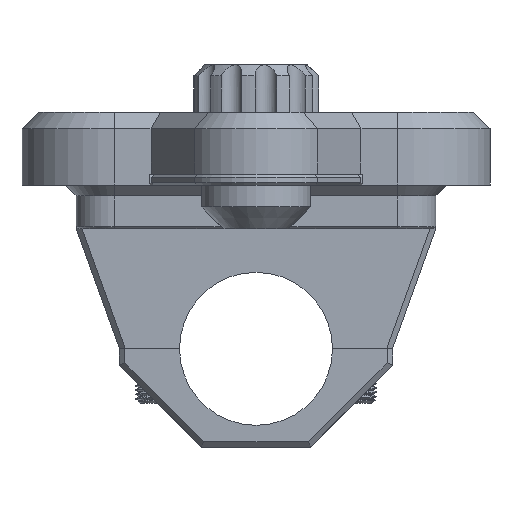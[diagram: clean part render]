
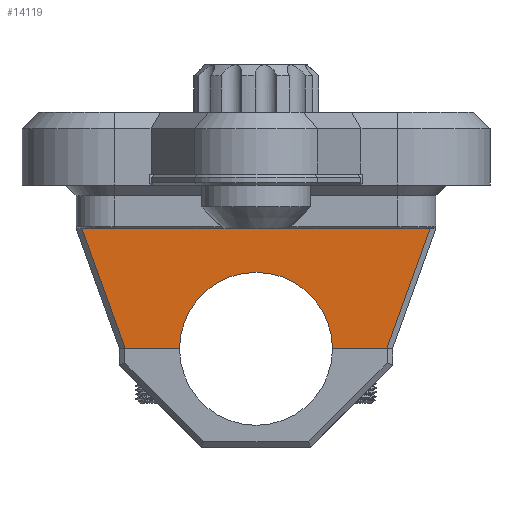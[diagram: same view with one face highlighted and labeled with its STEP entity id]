
A CAD part, left-side view. The second image highlights one B-rep face of the part: STEP entity #14119.
In plain terms, the highlighted planar face has unit normal (-1, 0, 0).
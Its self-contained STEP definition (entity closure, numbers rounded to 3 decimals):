
#1620=CIRCLE('',#15102,14.);
#1945=FACE_OUTER_BOUND('',#2768,.T.);
#2768=EDGE_LOOP('',(#10193,#10194,#10195,#10196,#10197,#10198,#10199,#10200,
#10201,#10202,#10203,#10204));
#3814=LINE('',#21311,#4894);
#3815=LINE('',#21314,#4895);
#3818=LINE('',#21320,#4898);
#3819=LINE('',#21322,#4899);
#3820=LINE('',#21324,#4900);
#3821=LINE('',#21326,#4901);
#3822=LINE('',#21328,#4902);
#3823=LINE('',#21332,#4903);
#3824=LINE('',#21334,#4904);
#3825=LINE('',#21336,#4905);
#3826=LINE('',#21337,#4906);
#4894=VECTOR('',#16822,10.);
#4895=VECTOR('',#16825,10.);
#4898=VECTOR('',#16830,10.);
#4899=VECTOR('',#16831,10.);
#4900=VECTOR('',#16832,10.);
#4901=VECTOR('',#16833,10.);
#4902=VECTOR('',#16834,10.);
#4903=VECTOR('',#16837,10.);
#4904=VECTOR('',#16838,10.);
#4905=VECTOR('',#16839,10.);
#4906=VECTOR('',#16840,10.);
#5956=VERTEX_POINT('',#21291);
#5960=VERTEX_POINT('',#21307);
#5961=VERTEX_POINT('',#21313);
#5963=VERTEX_POINT('',#21319);
#5964=VERTEX_POINT('',#21321);
#5965=VERTEX_POINT('',#21323);
#5966=VERTEX_POINT('',#21325);
#5967=VERTEX_POINT('',#21327);
#5968=VERTEX_POINT('',#21329);
#5969=VERTEX_POINT('',#21331);
#5970=VERTEX_POINT('',#21333);
#5971=VERTEX_POINT('',#21335);
#7557=EDGE_CURVE('',#5956,#5960,#3814,.T.);
#7558=EDGE_CURVE('',#5960,#5961,#3815,.T.);
#7561=EDGE_CURVE('',#5956,#5963,#3818,.T.);
#7562=EDGE_CURVE('',#5964,#5963,#3819,.F.);
#7563=EDGE_CURVE('',#5965,#5964,#3820,.T.);
#7564=EDGE_CURVE('',#5966,#5965,#3821,.T.);
#7565=EDGE_CURVE('',#5967,#5966,#3822,.T.);
#7566=EDGE_CURVE('',#5967,#5968,#1620,.T.);
#7567=EDGE_CURVE('',#5969,#5968,#3823,.T.);
#7568=EDGE_CURVE('',#5970,#5969,#3824,.T.);
#7569=EDGE_CURVE('',#5971,#5970,#3825,.T.);
#7570=EDGE_CURVE('',#5961,#5971,#3826,.F.);
#10193=ORIENTED_EDGE('',*,*,#7557,.F.);
#10194=ORIENTED_EDGE('',*,*,#7561,.T.);
#10195=ORIENTED_EDGE('',*,*,#7562,.F.);
#10196=ORIENTED_EDGE('',*,*,#7563,.F.);
#10197=ORIENTED_EDGE('',*,*,#7564,.F.);
#10198=ORIENTED_EDGE('',*,*,#7565,.F.);
#10199=ORIENTED_EDGE('',*,*,#7566,.T.);
#10200=ORIENTED_EDGE('',*,*,#7567,.F.);
#10201=ORIENTED_EDGE('',*,*,#7568,.F.);
#10202=ORIENTED_EDGE('',*,*,#7569,.F.);
#10203=ORIENTED_EDGE('',*,*,#7570,.F.);
#10204=ORIENTED_EDGE('',*,*,#7558,.F.);
#13751=PLANE('',#15101);
#14119=ADVANCED_FACE('',(#1945),#13751,.T.);
#15101=AXIS2_PLACEMENT_3D('',#21318,#16828,#16829);
#15102=AXIS2_PLACEMENT_3D('',#21330,#16835,#16836);
#16822=DIRECTION('',(0.,-1.,0.));
#16825=DIRECTION('',(0.,0.,-1.));
#16828=DIRECTION('center_axis',(-1.,0.,0.));
#16829=DIRECTION('ref_axis',(0.,1.,0.));
#16830=DIRECTION('',(0.,0.,-1.));
#16831=DIRECTION('',(0.,0.707,-0.707));
#16832=DIRECTION('',(0.,-1.,0.));
#16833=DIRECTION('',(0.,0.34,0.94));
#16834=DIRECTION('',(0.,1.,0.));
#16835=DIRECTION('center_axis',(1.,0.,0.));
#16836=DIRECTION('ref_axis',(0.,-1.,0.));
#16837=DIRECTION('',(0.,1.,0.));
#16838=DIRECTION('',(0.,0.34,-0.94));
#16839=DIRECTION('',(0.,-1.,0.));
#16840=DIRECTION('',(0.,0.707,0.707));
#21291=CARTESIAN_POINT('',(-28.15,28.95,-0.6));
#21307=CARTESIAN_POINT('',(-28.15,-28.95,-0.6));
#21311=CARTESIAN_POINT('',(-28.15,-14.475,-0.6));
#21313=CARTESIAN_POINT('',(-28.15,-28.95,-9.6));
#21314=CARTESIAN_POINT('',(-28.15,-28.95,0.));
#21318=CARTESIAN_POINT('Origin',(-28.15,-28.95,0.));
#21319=CARTESIAN_POINT('',(-28.15,28.95,-9.6));
#21320=CARTESIAN_POINT('',(-28.15,28.95,0.));
#21321=CARTESIAN_POINT('',(-28.15,29.35,-10.));
#21322=CARTESIAN_POINT('',(-28.15,12.175,7.175));
#21323=CARTESIAN_POINT('',(-28.15,31.887,-10.));
#21324=CARTESIAN_POINT('',(-28.15,14.487,-10.));
#21325=CARTESIAN_POINT('',(-28.15,23.937,-32.));
#21326=CARTESIAN_POINT('',(-28.15,26.058,-26.13));
#21327=CARTESIAN_POINT('',(-28.15,14.,-32.));
#21328=CARTESIAN_POINT('',(-28.15,-28.95,-32.));
#21329=CARTESIAN_POINT('',(-28.15,-14.,-32.));
#21330=CARTESIAN_POINT('Origin',(-28.15,0.,
-32.));
#21331=CARTESIAN_POINT('',(-28.15,-23.937,-32.));
#21332=CARTESIAN_POINT('',(-28.15,-28.95,-32.));
#21333=CARTESIAN_POINT('',(-28.15,-31.887,-10.));
#21334=CARTESIAN_POINT('',(-28.15,-33.377,-5.877));
#21335=CARTESIAN_POINT('',(-28.15,-29.35,-10.));
#21336=CARTESIAN_POINT('',(-28.15,-1.,-10.));
#21337=CARTESIAN_POINT('',(-28.15,-26.65,-7.3));
